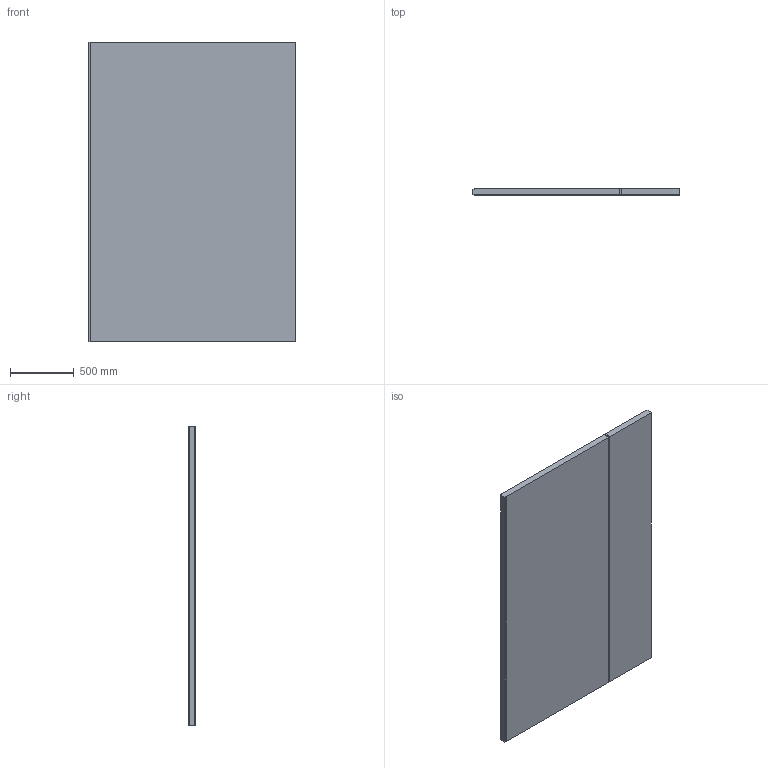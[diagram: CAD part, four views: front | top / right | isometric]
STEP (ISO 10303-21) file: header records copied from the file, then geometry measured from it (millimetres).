
FILE_DESCRIPTION (( 'STEP AP203' ), '1' );
FILE_NAME ('NEW PROJECT-CARPOT-2.STEP', '2025-10-06T07:56:33', ( '' ), ( '' ), 'SwSTEP 2.0', 'SolidWorks 2025', '' );
FILE_SCHEMA (( 'CONFIG_CONTROL_DESIGN' ));
Length unit declared in the file: centimetre
Products named in the file (1): NEW PROJECT-CARPOT-2
Bounding box: 1625 x 50 x 2348 mm (x, y, z)
Volume: 189003092 mm3; surface area: 8297036.4 mm2
Topology: 1 solids, 1 shells, 15 faces, 36 edges, 24 vertices
Faces by surface type: plane 15
Entity records: 505 total; most frequent: CARTESIAN_POINT 76, ORIENTED_EDGE 72, DIRECTION 68, EDGE_CURVE 36, VECTOR 36, LINE 36, VERTEX_POINT 24, EDGE_LOOP 16
